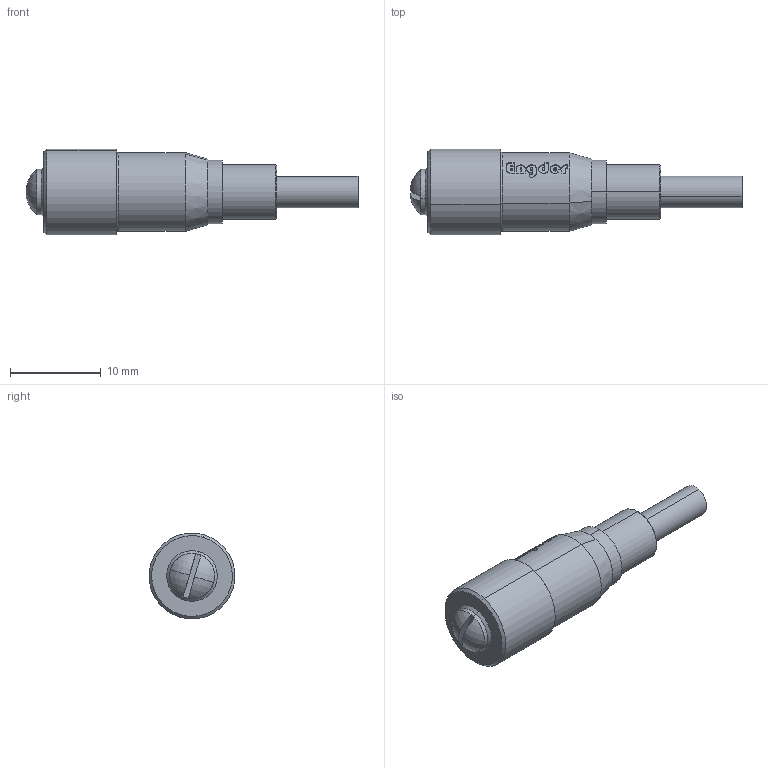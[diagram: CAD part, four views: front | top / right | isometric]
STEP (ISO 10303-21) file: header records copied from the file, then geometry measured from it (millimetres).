
FILE_DESCRIPTION (( 'STEP AP203' ), '1' );
FILE_NAME ('MT6.5-1_customer.STEP', '2019-02-13T12:10:30', ( 'User' ), ( 'No' ), 'SwSTEP 2.0', 'SolidWorks 2012', '' );
FILE_SCHEMA (( 'CONFIG_CONTROL_DESIGN' ));
Length unit declared in the file: millimetre
Products named in the file (3): MT6.5-1_b_customer; MT6.5-1_a_customer; MT6.5-1_customer
Assembly tree (2 placements, depth 2):
  MT6.5-1_customer
    MT6.5-1_b_customer
    MT6.5-1_a_customer
Bounding box: 36.69 x 9.48 x 9.48 mm (x, y, z)
Volume: 1378.6 mm3; surface area: 2095.6 mm2
Topology: 2 solids, 2 shells, 137 faces, 341 edges, 222 vertices
Faces by surface type: bspline 49, plane 44, cylinder 28, cone 10, sphere 4, torus 2
Entity records: 7906 total; most frequent: CARTESIAN_POINT 4702, ORIENTED_EDGE 682, DIRECTION 470, EDGE_CURVE 341, VERTEX_POINT 222, AXIS2_PLACEMENT_3D 199, B_SPLINE_CURVE_WITH_KNOTS 163, EDGE_LOOP 153
